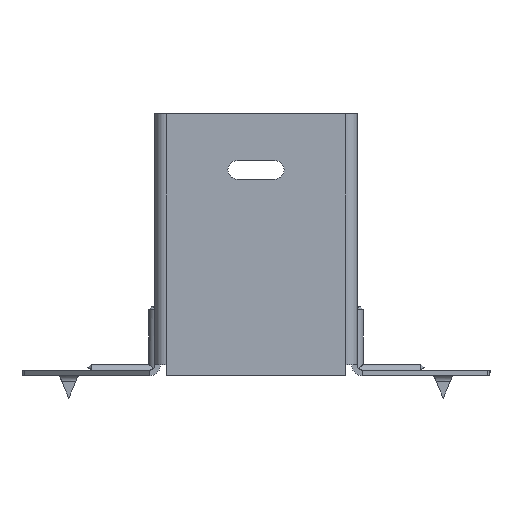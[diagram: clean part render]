
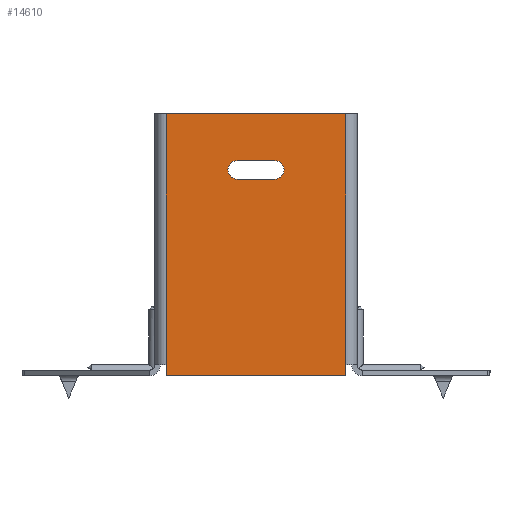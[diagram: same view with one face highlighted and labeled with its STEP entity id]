
A CAD part, front view. The second image highlights one B-rep face of the part: STEP entity #14610.
In plain terms, the highlighted planar face has unit normal (0, -1, 0).
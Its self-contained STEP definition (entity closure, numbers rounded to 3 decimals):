
#570 = CIRCLE ( 'NONE', #6843, 2.5 ) ;
#578 = CARTESIAN_POINT ( 'NONE',  ( -25.5, 0., -70. ) ) ;
#610 = DIRECTION ( 'NONE',  ( 0., 1., 0. ) ) ;
#668 = ORIENTED_EDGE ( 'NONE', *, *, #4048, .T. ) ;
#1298 = ORIENTED_EDGE ( 'NONE', *, *, #16799, .T. ) ;
#1469 = EDGE_CURVE ( 'NONE', #5610, #10393, #13926, .T. ) ;
#1700 = VERTEX_POINT ( 'NONE', #4031 ) ;
#1883 = LINE ( 'NONE', #18057, #3893 ) ;
#1906 = EDGE_CURVE ( 'NONE', #5610, #17836, #14840, .T. ) ;
#2022 = DIRECTION ( 'NONE',  ( -1., 0., 0. ) ) ;
#2263 = DIRECTION ( 'NONE',  ( 1., 0., 0. ) ) ;
#2991 = DIRECTION ( 'NONE',  ( 0., 0., -1. ) ) ;
#3639 = CARTESIAN_POINT ( 'NONE',  ( -5., 0., -12.5 ) ) ;
#3681 = ORIENTED_EDGE ( 'NONE', *, *, #10016, .F. ) ;
#3893 = VECTOR ( 'NONE', #12158, 1000. ) ;
#3933 = DIRECTION ( 'NONE',  ( 0., 0., -1. ) ) ;
#4031 = CARTESIAN_POINT ( 'NONE',  ( 5., 0., -12.5 ) ) ;
#4048 = EDGE_CURVE ( 'NONE', #12710, #5847, #5993, .T. ) ;
#4272 = CARTESIAN_POINT ( 'NONE',  ( -5., 0., -17.5 ) ) ;
#4432 = CARTESIAN_POINT ( 'NONE',  ( 24., 0., -70. ) ) ;
#4637 = ORIENTED_EDGE ( 'NONE', *, *, #18392, .T. ) ;
#5105 = VERTEX_POINT ( 'NONE', #14475 ) ;
#5400 = ORIENTED_EDGE ( 'NONE', *, *, #13102, .T. ) ;
#5406 = VECTOR ( 'NONE', #12711, 1000. ) ;
#5583 = PLANE ( 'NONE',  #18493 ) ;
#5610 = VERTEX_POINT ( 'NONE', #6388 ) ;
#5748 = CARTESIAN_POINT ( 'NONE',  ( -24., 0., 0. ) ) ;
#5847 = VERTEX_POINT ( 'NONE', #7012 ) ;
#5993 = LINE ( 'NONE', #12867, #12284 ) ;
#6141 = CIRCLE ( 'NONE', #8645, 2.5 ) ;
#6342 = CARTESIAN_POINT ( 'NONE',  ( -5., 0., -15. ) ) ;
#6388 = CARTESIAN_POINT ( 'NONE',  ( 24., 0., -70. ) ) ;
#6784 = EDGE_CURVE ( 'NONE', #16430, #5105, #6141, .T. ) ;
#6786 = EDGE_CURVE ( 'NONE', #10393, #18164, #12879, .T. ) ;
#6835 = ORIENTED_EDGE ( 'NONE', *, *, #6784, .T. ) ;
#6843 = AXIS2_PLACEMENT_3D ( 'NONE', #9264, #10701, #7873 ) ;
#6873 = VECTOR ( 'NONE', #2263, 1000. ) ;
#6939 = FACE_BOUND ( 'NONE', #15963, .T. ) ;
#7012 = CARTESIAN_POINT ( 'NONE',  ( -24., 0., -67. ) ) ;
#7088 = CARTESIAN_POINT ( 'NONE',  ( 5., 0., -17.5 ) ) ;
#7341 = DIRECTION ( 'NONE',  ( 0., 0., 1. ) ) ;
#7362 = EDGE_LOOP ( 'NONE', ( #668, #1298, #12569, #10528, #9325, #3681 ) ) ;
#7873 = DIRECTION ( 'NONE',  ( 0., 0., 1. ) ) ;
#7978 = CARTESIAN_POINT ( 'NONE',  ( 24., 0., -70. ) ) ;
#8099 = EDGE_CURVE ( 'NONE', #1700, #8836, #570, .T. ) ;
#8645 = AXIS2_PLACEMENT_3D ( 'NONE', #6342, #610, #13634 ) ;
#8836 = VERTEX_POINT ( 'NONE', #7088 ) ;
#8978 = VECTOR ( 'NONE', #7341, 1000. ) ;
#9254 = LINE ( 'NONE', #11147, #5406 ) ;
#9264 = CARTESIAN_POINT ( 'NONE',  ( 5., 0., -15. ) ) ;
#9310 = DIRECTION ( 'NONE',  ( 0., 0., 1. ) ) ;
#9325 = ORIENTED_EDGE ( 'NONE', *, *, #6786, .T. ) ;
#10016 = EDGE_CURVE ( 'NONE', #12710, #18164, #1883, .T. ) ;
#10216 = CARTESIAN_POINT ( 'NONE',  ( 24., 0., -67. ) ) ;
#10393 = VERTEX_POINT ( 'NONE', #10216 ) ;
#10528 = ORIENTED_EDGE ( 'NONE', *, *, #1469, .T. ) ;
#10701 = DIRECTION ( 'NONE',  ( 0., 1., 0. ) ) ;
#10703 = LINE ( 'NONE', #3639, #6873 ) ;
#10772 = CARTESIAN_POINT ( 'NONE',  ( -24., 0., -70. ) ) ;
#10821 = ORIENTED_EDGE ( 'NONE', *, *, #8099, .T. ) ;
#11147 = CARTESIAN_POINT ( 'NONE',  ( -5., 0., -17.5 ) ) ;
#11210 = LINE ( 'NONE', #12006, #17931 ) ;
#12006 = CARTESIAN_POINT ( 'NONE',  ( -24., 0., 0. ) ) ;
#12158 = DIRECTION ( 'NONE',  ( 1., 0., 0. ) ) ;
#12284 = VECTOR ( 'NONE', #2991, 1000. ) ;
#12569 = ORIENTED_EDGE ( 'NONE', *, *, #1906, .F. ) ;
#12710 = VERTEX_POINT ( 'NONE', #5748 ) ;
#12711 = DIRECTION ( 'NONE',  ( -1., 0., 0. ) ) ;
#12823 = DIRECTION ( 'NONE',  ( 0., 0., 1. ) ) ;
#12867 = CARTESIAN_POINT ( 'NONE',  ( -24., 0., 0. ) ) ;
#12879 = LINE ( 'NONE', #7978, #17819 ) ;
#13102 = EDGE_CURVE ( 'NONE', #8836, #16430, #9254, .T. ) ;
#13634 = DIRECTION ( 'NONE',  ( 0., 0., 1. ) ) ;
#13682 = FACE_OUTER_BOUND ( 'NONE', #7362, .T. ) ;
#13926 = LINE ( 'NONE', #4432, #8978 ) ;
#14475 = CARTESIAN_POINT ( 'NONE',  ( -5., 0., -12.5 ) ) ;
#14489 = CARTESIAN_POINT ( 'NONE',  ( 24., 0., 0. ) ) ;
#14610 = ADVANCED_FACE ( 'NONE', ( #6939, #13682 ), #5583, .F. ) ;
#14840 = LINE ( 'NONE', #578, #18197 ) ;
#15775 = CARTESIAN_POINT ( 'NONE',  ( 0., 0., 0. ) ) ;
#15899 = DIRECTION ( 'NONE',  ( 0., 1., 0. ) ) ;
#15963 = EDGE_LOOP ( 'NONE', ( #5400, #6835, #4637, #10821 ) ) ;
#16430 = VERTEX_POINT ( 'NONE', #4272 ) ;
#16799 = EDGE_CURVE ( 'NONE', #5847, #17836, #11210, .T. ) ;
#17819 = VECTOR ( 'NONE', #9310, 1000. ) ;
#17836 = VERTEX_POINT ( 'NONE', #10772 ) ;
#17931 = VECTOR ( 'NONE', #3933, 1000. ) ;
#18057 = CARTESIAN_POINT ( 'NONE',  ( -25.5, 0., 0. ) ) ;
#18164 = VERTEX_POINT ( 'NONE', #14489 ) ;
#18197 = VECTOR ( 'NONE', #2022, 1000. ) ;
#18392 = EDGE_CURVE ( 'NONE', #5105, #1700, #10703, .T. ) ;
#18493 = AXIS2_PLACEMENT_3D ( 'NONE', #15775, #15899, #12823 ) ;
